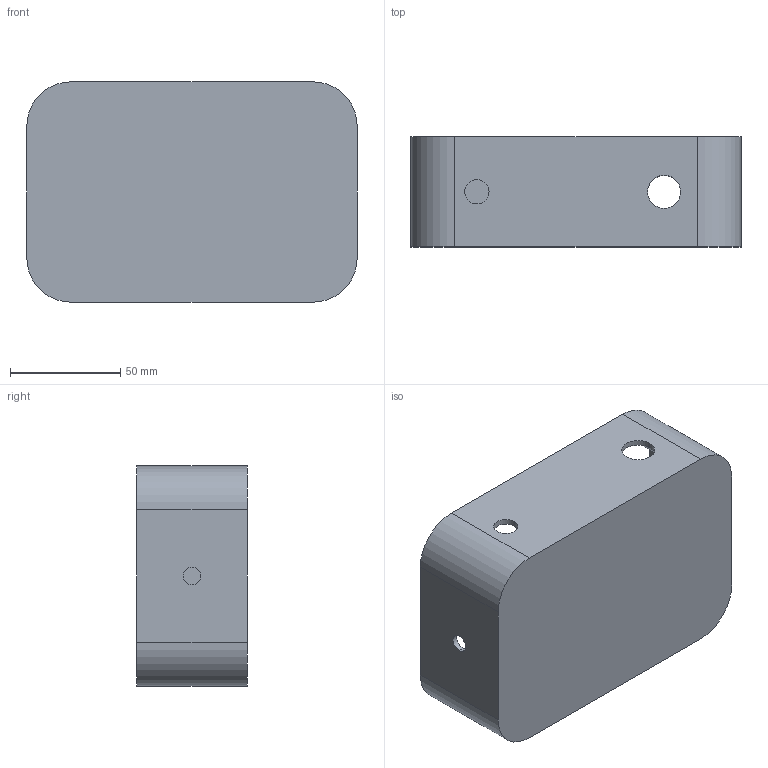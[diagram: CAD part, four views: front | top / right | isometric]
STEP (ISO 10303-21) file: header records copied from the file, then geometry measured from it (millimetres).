
FILE_DESCRIPTION (( 'STEP AP203' ), '1' );
FILE_NAME ('3d encloser Box.STEP', '2024-11-17T16:08:41', ( '' ), ( '' ), 'SwSTEP 2.0', 'SolidWorks 2020', '' );
FILE_SCHEMA (( 'CONFIG_CONTROL_DESIGN' ));
Length unit declared in the file: millimetre
Products named in the file (1): 3d encloser Box
Bounding box: 150 x 50 x 100 mm (x, y, z)
Volume: 104564.1 mm3; surface area: 80197.4 mm2
Topology: 1 solids, 1 shells, 63 faces, 168 edges, 112 vertices
Faces by surface type: cylinder 40, plane 23
Entity records: 2095 total; most frequent: DIRECTION 376, CARTESIAN_POINT 344, ORIENTED_EDGE 336, EDGE_CURVE 168, AXIS2_PLACEMENT_3D 144, VERTEX_POINT 112, VECTOR 88, LINE 88
